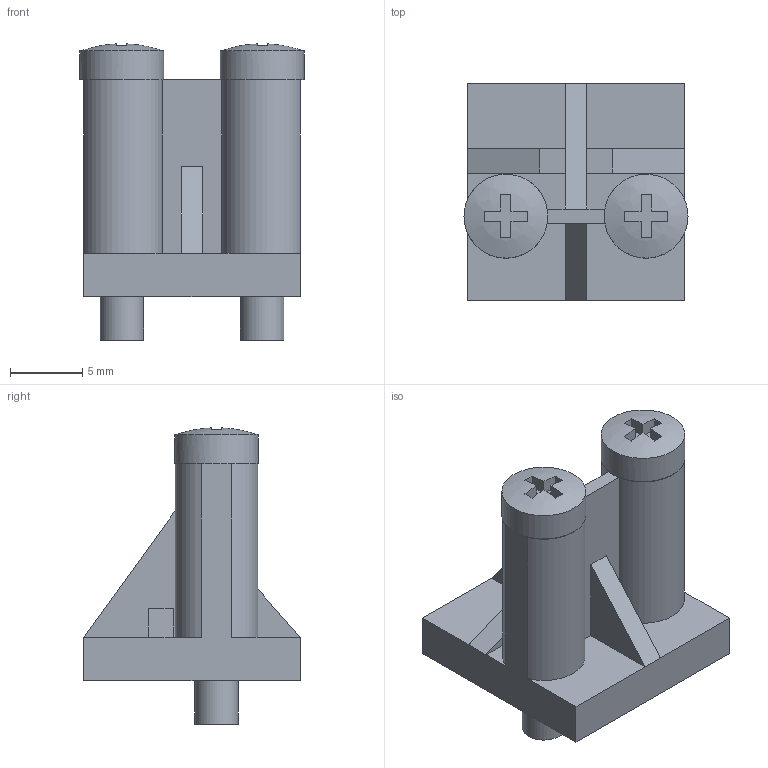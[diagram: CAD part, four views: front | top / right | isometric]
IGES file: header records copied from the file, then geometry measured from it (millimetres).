
Global section: file name: 355_00; native system: Autodesk Inventor 2014; preprocessor: unknown; organization: Pneumax S.p.A.; date: 20161003.112559; units: millimetre
Bounding box: 15.5 x 15 x 20.49 mm (x, y, z)
Volume: 1614.9 mm3; surface area: 1441.6 mm2
Topology: 1 solids, 1 shells, 69 faces, 181 edges, 116 vertices
Faces by surface type: bspline 69
